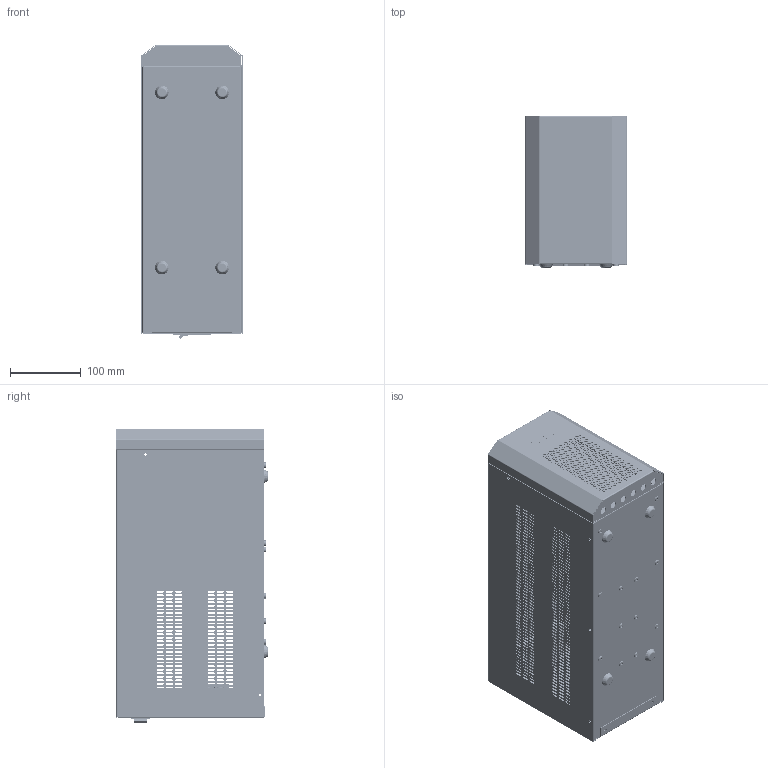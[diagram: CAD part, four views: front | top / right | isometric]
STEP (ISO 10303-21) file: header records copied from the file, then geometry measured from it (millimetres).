
FILE_DESCRIPTION (( 'STEP AP214' ), '1' );
FILE_NAME ('BPSMLT1-36V.STEP', '2023-03-22T13:16:29', ( '' ), ( '' ), 'SwSTEP 2.0', 'SolidWorks 2022', '' );
FILE_SCHEMA (( 'AUTOMOTIVE_DESIGN' ));
Length unit declared in the file: millimetre
Products named in the file (20): BPSMLT1-36V; BATTERY PACK; YM_M4_2.stp; JIAO-JIAN.stp; KONGKAIKA.stp; DKC; HOUBAN_1KH_ASM.stp; HENLIANG.stp; FRONT.stp; HENLIANG_ASM.stp; BOTTOM_1KH.stp; HOUBAN_1KH.stp; BOTTOM_1KH_ASM.stp; DZ-47_63.stp; FRONT_ASM.stp; 3JIE_BATTERY_KA.stp; DIANCHICHA.stp; BATTERY_DANGBAN.stp; EA901-COVER-1KH.stp; NP7-12.stp
Assembly tree (55 placements, depth 3):
  BPSMLT1-36V
    BOTTOM_1KH_ASM.stp
      BOTTOM_1KH.stp
      YM_M4_2.stp  x24
    FRONT_ASM.stp
      FRONT.stp
      YM_M4_2.stp  x4
    HOUBAN_1KH_ASM.stp
      HOUBAN_1KH.stp
      YM_M4_2.stp  x2
      JIAO-JIAN.stp  x2
      DIANCHICHA.stp  x2
      KONGKAIKA.stp
      DZ-47_63.stp
    HENLIANG_ASM.stp
      HENLIANG.stp
      YM_M4_2.stp  x2
    EA901-COVER-1KH.stp
    NP7-12.stp  x3
    BATTERY_DANGBAN.stp  x2
    3JIE_BATTERY_KA.stp
    BATTERY PACK
    DKC
Bounding box: 143 x 214 x 415.14 mm (x, y, z)
Volume: 3304431.4 mm3; surface area: 1123420.4 mm2
Topology: 37 solids, 101 shells, 7001 faces, 19752 edges, 12964 vertices
Faces by surface type: plane 4624, cylinder 2046, bspline 185, cone 86, sphere 33, torus 27
Entity records: 218305 total; most frequent: CARTESIAN_POINT 46964, ORIENTED_EDGE 35830, DIRECTION 33395, EDGE_CURVE 17917, VECTOR 14119, LINE 14119, VERTEX_POINT 11810, AXIS2_PLACEMENT_3D 9638
